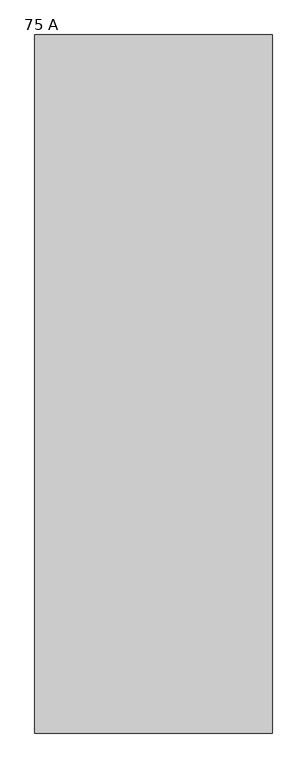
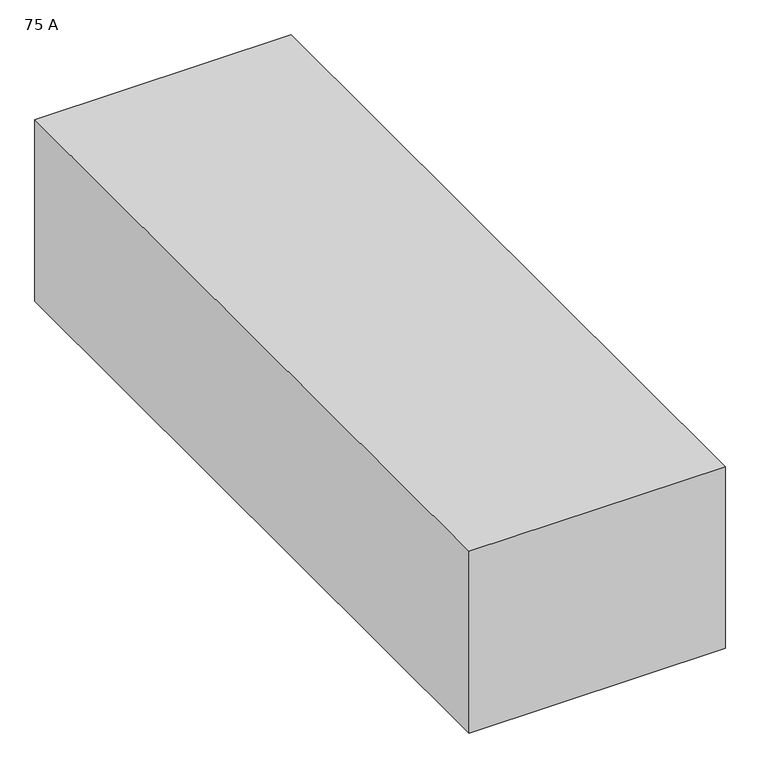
"""IFC4 building model written with IfcOpenShell, lengths in millimetres: proxy geometry, M_燈光與家電用品配電盤 - 480V MCB - 表面 : 75 A."""

from ifc_helpers import new_model, si_unit, origin, origin_with_axes, place, context, project, spatial, polyline, outline, extrude, source, transform, mapped, element, save


def proxy_75_a_97e29286(model_context):
    return source(origin(), model_context, "Body", "SweptSolid", [
        extrude(outline(polyline([(501.6, 0.0), (501.6, -2350.0), (-298.4, -2350.0), (-298.4, 0.0), (501.6, 0.0)])), origin_with_axes(), (0.0, 0.0, 1.0), 600.0),
    ])


if __name__ == "__main__":
    model = new_model("IFC4")
    model_context = context("Model", 3, world=origin())
    ifc_project = project(units=[si_unit("LENGTHUNIT", "METRE", prefix="MILLI")], contexts=[model_context])
    site = spatial("IfcSite", under=ifc_project)
    building = spatial("IfcBuilding", under=site)
    placement = place(None, origin())
    proxy_75_a_shape = proxy_75_a_97e29286(model_context)
    element("IfcBuildingElementProxy", 1, Name="M_燈光與家電用品配電盤 - 480V MCB - 表面 : 75 A", ObjectType="M_燈光與家電用品配電盤 - 480V MCB - 表面 : 75 A", at=placement, inside=building, context=model_context, shape_type="MappedRepresentation", body=[
        mapped(proxy_75_a_shape, transform((0.0, 0.0, 0.0), x_axis=(1.0, 0.0, 0.0), y_axis=(0.0, 1.0, 0.0), z_axis=(0.0, 0.0, 1.0))),
    ])
    save(model, "model.ifc")
